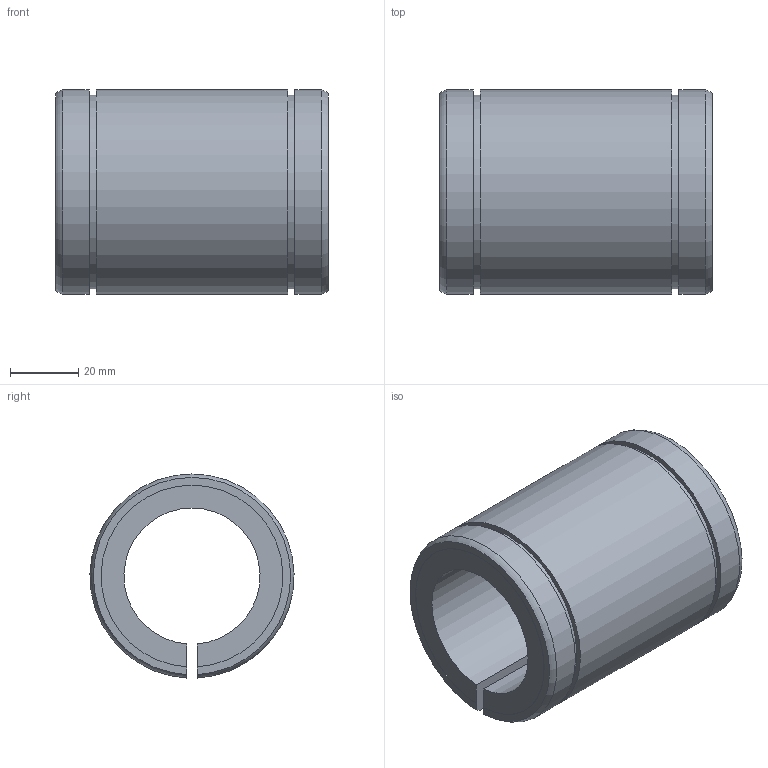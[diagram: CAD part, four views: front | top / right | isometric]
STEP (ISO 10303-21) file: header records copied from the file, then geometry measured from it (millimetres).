
FILE_DESCRIPTION((''),'2;1');
FILE_NAME('D:\製品 (図面)\カタログ用3D\リニアベアリング関連\STEP形式\L-ADJ\L40-ADJ.stp','2010-06-02T17:38:08',('Tsuchiya'),(''),'Autodesk Inventor 10','Autodesk Inventor 10','');
FILE_SCHEMA(('AUTOMOTIVE_DESIGN { 1 0 10303 214 1 1 1 1 }'));
Length unit declared in the file: millimetre
Products named in the file (1): L40-ADJ
Bounding box: 80 x 59.98 x 59.96 mm (x, y, z)
Volume: 121632 mm3; surface area: 30088.7 mm2
Topology: 1 solids, 1 shells, 20 faces, 54 edges, 36 vertices
Faces by surface type: plane 10, cylinder 8, torus 2
Entity records: 687 total; most frequent: CARTESIAN_POINT 147, DIRECTION 110, ORIENTED_EDGE 108, EDGE_CURVE 54, AXIS2_PLACEMENT_3D 39, VERTEX_POINT 36, VECTOR 32, LINE 32
